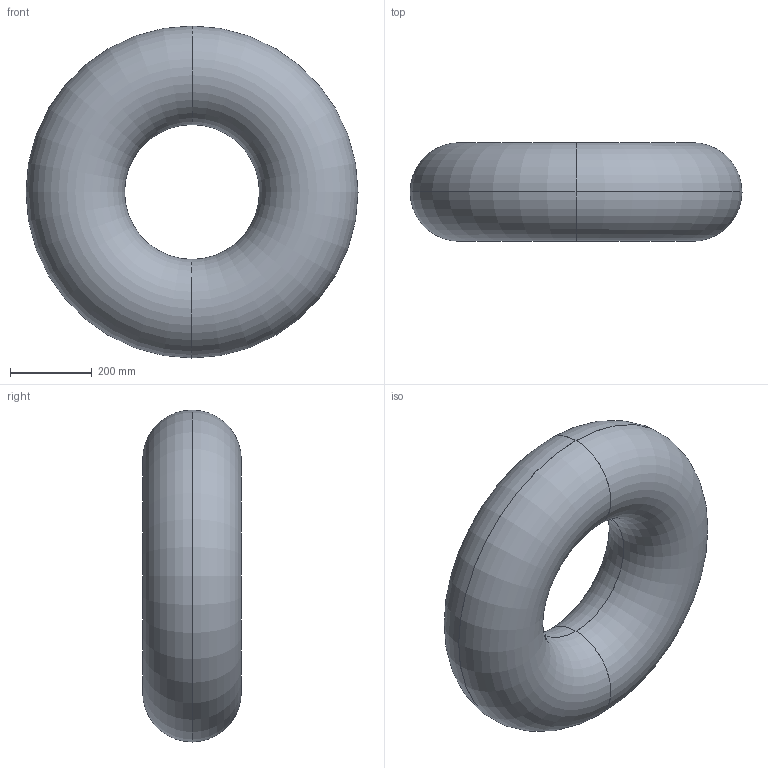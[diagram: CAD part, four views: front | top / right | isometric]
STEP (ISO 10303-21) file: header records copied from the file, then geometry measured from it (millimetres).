
FILE_DESCRIPTION((''),'2;1');
FILE_NAME('D:\firstcadlibrary\upload folder\RingerRed.stp','2007-01-10T17:02:54',('uidk0133'),(''),'Autodesk Inventor (R) 6.0','Autodesk Inventor (R) 6.0','');
FILE_SCHEMA(('AUTOMOTIVE_DESIGN { 1 0 10303 214 1 1 1 1 }'));
Length unit declared in the file: inch
Products named in the file (1): RingerRed
Bounding box: 812.8 x 241.3 x 812.8 mm (x, y, z)
Volume: 345342.2 mm3; surface area: 2719229.8 mm2
Topology: 1 solids, 2 shells, 8 faces, 16 edges, 8 vertices
Faces by surface type: torus 8
Entity records: 243 total; most frequent: DIRECTION 50, CARTESIAN_POINT 33, ORIENTED_EDGE 32, AXIS2_PLACEMENT_3D 25, CIRCLE 16, EDGE_CURVE 16, TOROIDAL_SURFACE 8, VERTEX_POINT 8
